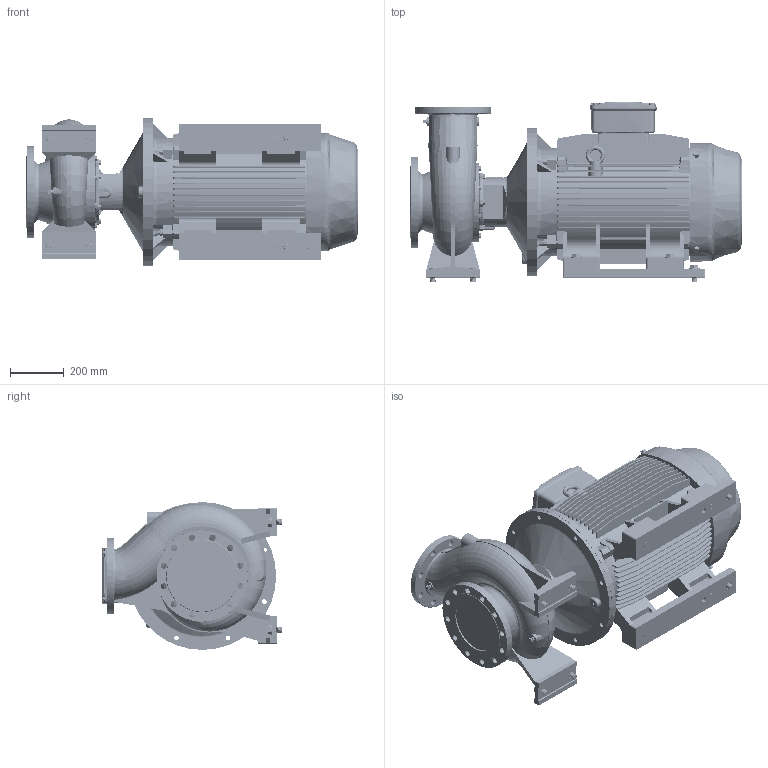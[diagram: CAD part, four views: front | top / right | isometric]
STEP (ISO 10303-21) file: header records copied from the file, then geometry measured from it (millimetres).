
FILE_DESCRIPTION (( 'STEP AP214' ), '1' );
FILE_NAME ('GSD2 150-200_55 & 75_(250SM)_W21.STEP', '2026-07-07T04:31:02', ( '' ), ( '' ), 'SwSTEP 2.0', 'SolidWorks 2024', '' );
FILE_SCHEMA (( 'AUTOMOTIVE_DESIGN' ));
Length unit declared in the file: millimetre
Products named in the file (8): Parametric bolt_SFT-A403B; 250S_M2P IE3_W21T_B35; 100x30 - CGSDA-5291; GSD2  150-200_55 & 75_(250SM)_W21; Parametric bolt_SFT-A407B; 150-200-250S_M_ﾃﾞﾌｫﾙﾄ; Parametric Flat Washer_M20; Parametric bolt_SFT-A417B
Assembly tree (24 placements, depth 2):
  GSD2  150-200_55 & 75_(250SM)_W21
    150-200-250S_M_ﾃﾞﾌｫﾙﾄ
    250S_M2P IE3_W21T_B35
    100x30 - CGSDA-5291  x2
    Parametric bolt_SFT-A417B  x4
    Parametric bolt_SFT-A407B  x2
    Parametric bolt_SFT-A403B  x4
    Parametric Flat Washer_M20  x10
Bounding box: 1235.5 x 670 x 550 mm (x, y, z)
Volume: 160233983.3 mm3; surface area: 5851440.4 mm2
Topology: 26 solids, 31 shells, 4149 faces, 10943 edges, 6982 vertices
Faces by surface type: plane 1617, cylinder 1453, cone 473, bspline 308, torus 282, sphere 16
Entity records: 186368 total; most frequent: CARTESIAN_POINT 101428, ORIENTED_EDGE 18724, DIRECTION 16758, EDGE_CURVE 9362, AXIS2_PLACEMENT_3D 6135, VERTEX_POINT 5959, VECTOR 4488, LINE 4488
